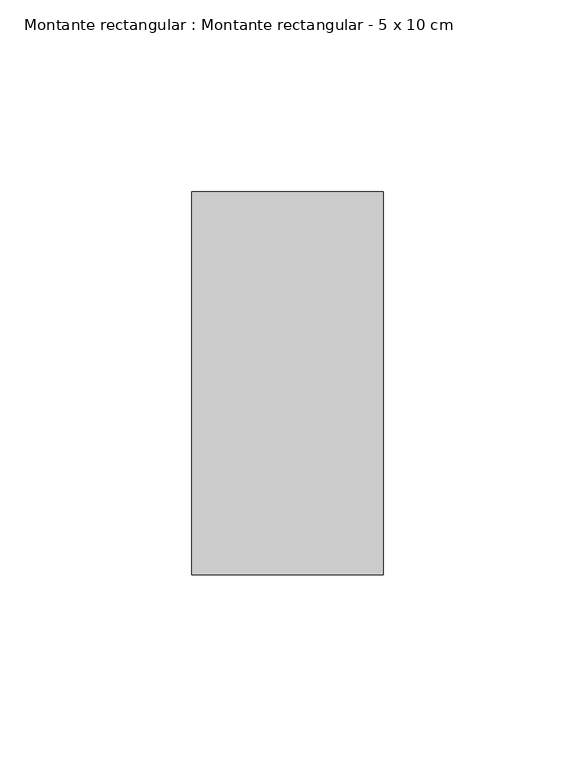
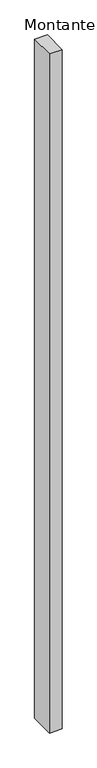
"""IFC4 building model written with IfcOpenShell, lengths in millimetres: member geometry, Montante rectangular : Montante rectangular - 5 x 10 cm."""

from ifc_helpers import new_model, si_unit, frame, origin, place, context, project, spatial, polyline, outline, extrude, source, transform, mapped, element, save


def montante_rectangular_montante_rectangular_5_x_10_cm_97dcbfa1(model_context):
    return source(origin(), model_context, "Body", "SweptSolid", [
        extrude(outline(polyline([(0.0, -50.0), (-50.0, -50.0), (-50.0, 50.0), (0.0, 50.0), (0.0, -50.0)])), frame((0.0, 0.0, -2820.0), z_axis=(0.0, 0.0, 1.0), x_axis=(1.0, 0.0, 0.0)), (0.0, 0.0, 1.0), 2820.0),
    ])


if __name__ == "__main__":
    model = new_model("IFC4")
    model_context = context("Model", 3, world=origin())
    ifc_project = project(units=[si_unit("LENGTHUNIT", "METRE", prefix="MILLI")], contexts=[model_context])
    site = spatial("IfcSite", under=ifc_project)
    building = spatial("IfcBuilding", under=site)
    placement = place(None, origin())
    montante_rectangular_montante_rectangular_5_x_10_cm_shape = montante_rectangular_montante_rectangular_5_x_10_cm_97dcbfa1(model_context)
    element("IfcMember", 1, ObjectType="Montante rectangular : Montante rectangular - 5 x 10 cm", at=placement, inside=building, context=model_context, shape_type="MappedRepresentation", body=[
        mapped(montante_rectangular_montante_rectangular_5_x_10_cm_shape, transform((0.0, 0.0, 0.0), x_axis=(1.0, 0.0, 0.0), y_axis=(0.0, 1.0, 0.0), z_axis=(0.0, 0.0, 1.0))),
    ])
    save(model, "model.ifc")
